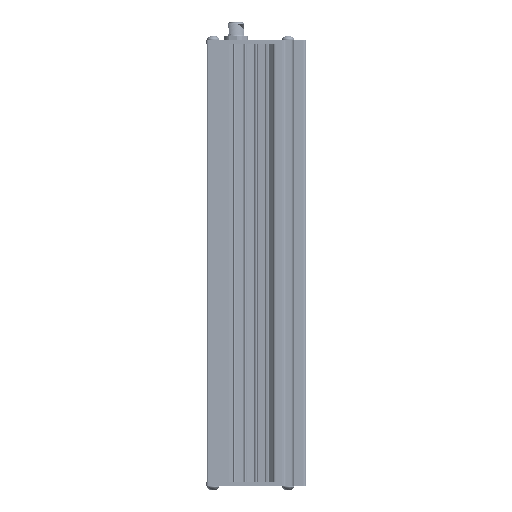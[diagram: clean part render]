
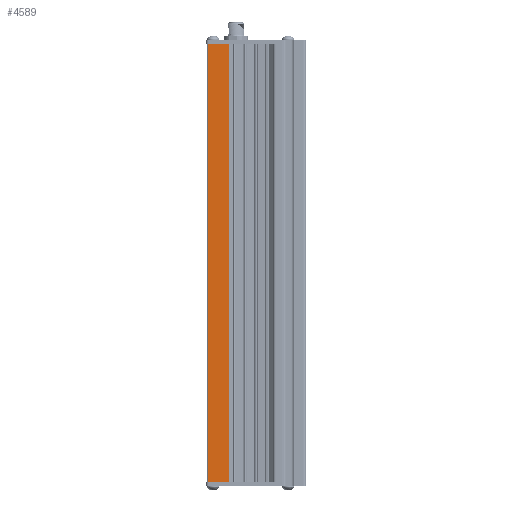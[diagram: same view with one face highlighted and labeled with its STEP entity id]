
A CAD part, left-side view. The second image highlights one B-rep face of the part: STEP entity #4589.
In plain terms, the highlighted planar face has unit normal (-1, 0, 0).
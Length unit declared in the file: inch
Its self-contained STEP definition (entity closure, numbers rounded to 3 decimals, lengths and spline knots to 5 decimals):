
#513 = LINE ( 'NONE', #11942, #16533 ) ;
#2064 = CARTESIAN_POINT ( 'NONE',  ( -1.76811, 0.75971, -6.25 ) ) ;
#2183 = CARTESIAN_POINT ( 'NONE',  ( -1.76811, 0.75971, 6.25 ) ) ;
#2997 = CARTESIAN_POINT ( 'NONE',  ( -1.76811, 1.342, 6.25 ) ) ;
#3956 = ORIENTED_EDGE ( 'NONE', *, *, #23871, .T. ) ;
#4589 = ADVANCED_FACE ( 'NONE', ( #32667 ), #36051, .F. ) ;
#6269 = EDGE_CURVE ( 'NONE', #10964, #15353, #7102, .T. ) ;
#7102 = LINE ( 'NONE', #13107, #10769 ) ;
#7129 = DIRECTION ( 'NONE',  ( 0., 1., 0. ) ) ;
#7429 = CARTESIAN_POINT ( 'NONE',  ( -1.76811, 1.342, -6.25 ) ) ;
#7707 = ORIENTED_EDGE ( 'NONE', *, *, #11103, .F. ) ;
#7779 = VECTOR ( 'NONE', #33738, 39.37008 ) ;
#10769 = VECTOR ( 'NONE', #33192, 39.37008 ) ;
#10964 = VERTEX_POINT ( 'NONE', #7429 ) ;
#11103 = EDGE_CURVE ( 'NONE', #24124, #15353, #15990, .T. ) ;
#11942 = CARTESIAN_POINT ( 'NONE',  ( -1.76811, 1.342, 6.25 ) ) ;
#12678 = VERTEX_POINT ( 'NONE', #2997 ) ;
#13107 = CARTESIAN_POINT ( 'NONE',  ( -1.76811, 1.342, -6.25 ) ) ;
#15353 = VERTEX_POINT ( 'NONE', #2064 ) ;
#15990 = LINE ( 'NONE', #18994, #24154 ) ;
#16533 = VECTOR ( 'NONE', #29784, 39.37008 ) ;
#18232 = DIRECTION ( 'NONE',  ( 1., 0., 0. ) ) ;
#18994 = CARTESIAN_POINT ( 'NONE',  ( -1.76811, 0.75971, 6.25 ) ) ;
#21420 = ORIENTED_EDGE ( 'NONE', *, *, #6269, .T. ) ;
#21430 = DIRECTION ( 'NONE',  ( 0., 0., -1. ) ) ;
#23871 = EDGE_CURVE ( 'NONE', #12678, #10964, #513, .T. ) ;
#24124 = VERTEX_POINT ( 'NONE', #2183 ) ;
#24154 = VECTOR ( 'NONE', #21430, 39.37008 ) ;
#24545 = LINE ( 'NONE', #36554, #7779 ) ;
#27405 = CARTESIAN_POINT ( 'NONE',  ( -1.76811, 1.342, 6.25 ) ) ;
#29784 = DIRECTION ( 'NONE',  ( 0., 0., -1. ) ) ;
#30747 = ORIENTED_EDGE ( 'NONE', *, *, #36577, .F. ) ;
#32667 = FACE_OUTER_BOUND ( 'NONE', #34778, .T. ) ;
#33192 = DIRECTION ( 'NONE',  ( 0., -1., 0. ) ) ;
#33738 = DIRECTION ( 'NONE',  ( 0., -1., 0. ) ) ;
#34778 = EDGE_LOOP ( 'NONE', ( #21420, #7707, #30747, #3956 ) ) ;
#36051 = PLANE ( 'NONE',  #36344 ) ;
#36344 = AXIS2_PLACEMENT_3D ( 'NONE', #27405, #18232, #7129 ) ;
#36554 = CARTESIAN_POINT ( 'NONE',  ( -1.76811, 1.342, 6.25 ) ) ;
#36577 = EDGE_CURVE ( 'NONE', #12678, #24124, #24545, .T. ) ;
